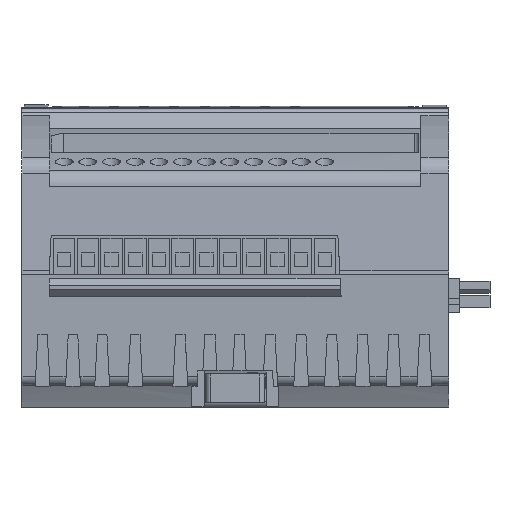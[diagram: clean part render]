
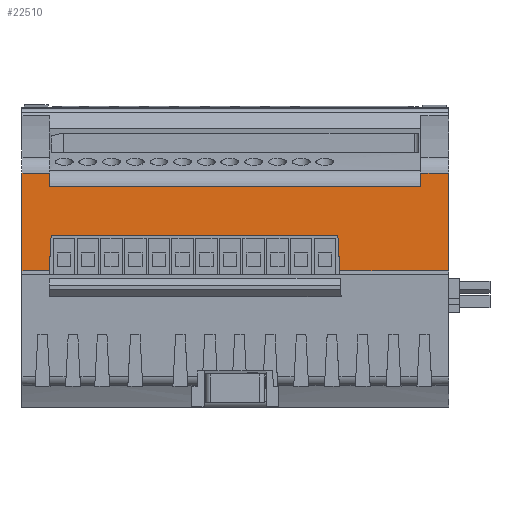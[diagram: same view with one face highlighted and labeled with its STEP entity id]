
A CAD part, front view. The second image highlights one B-rep face of the part: STEP entity #22510.
In plain terms, the highlighted planar face has unit normal (0, -0.999, 0.052).
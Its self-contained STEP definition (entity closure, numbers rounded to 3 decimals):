
#507=DIRECTION('',(0.,0.052,0.999));
#508=VECTOR('',#507,20.679);
#509=CARTESIAN_POINT('',(90.,0.,28.687));
#510=LINE('',#509,#508);
#763=DIRECTION('',(0.,0.052,0.999));
#764=VECTOR('',#763,20.679);
#765=CARTESIAN_POINT('',(0.,0.,28.687));
#766=LINE('',#765,#764);
#976=DIRECTION('',(-0.052,0.052,0.997));
#977=VECTOR('',#976,7.541);
#978=CARTESIAN_POINT('',(67.035,0.,28.687));
#979=LINE('',#978,#977);
#980=DIRECTION('',(-1.,0.,0.));
#981=VECTOR('',#980,60.5);
#982=CARTESIAN_POINT('',(66.641,0.394,36.207));
#983=LINE('',#982,#981);
#984=DIRECTION('',(0.052,0.052,0.997));
#985=VECTOR('',#984,7.541);
#986=CARTESIAN_POINT('',(5.747,0.,28.687));
#987=LINE('',#986,#985);
#988=DIRECTION('',(1.,0.,0.));
#989=VECTOR('',#988,5.747);
#990=CARTESIAN_POINT('',(0.,0.,28.687));
#991=LINE('',#990,#989);
#992=DIRECTION('',(0.,-0.052,-0.999));
#993=VECTOR('',#992,2.765);
#994=CARTESIAN_POINT('',(5.841,1.082,49.337));
#995=LINE('',#994,#993);
#996=DIRECTION('',(1.,0.,0.));
#997=VECTOR('',#996,78.282);
#998=CARTESIAN_POINT('',(5.841,0.938,46.577));
#999=LINE('',#998,#997);
#1000=DIRECTION('',(0.,-0.052,-0.999));
#1001=VECTOR('',#1000,2.765);
#1002=CARTESIAN_POINT('',(84.123,1.082,49.337));
#1003=LINE('',#1002,#1001);
#1004=DIRECTION('',(1.,0.,0.));
#1005=VECTOR('',#1004,22.965);
#1006=CARTESIAN_POINT('',(67.035,0.,28.687));
#1007=LINE('',#1006,#1005);
#10216=DIRECTION('',(1.,0.,0.));
#10217=VECTOR('',#10216,5.841);
#10218=CARTESIAN_POINT('',(0.,1.082,49.337));
#10219=LINE('',#10218,#10217);
#13156=DIRECTION('',(1.,0.,0.));
#13157=VECTOR('',#13156,5.877);
#13158=CARTESIAN_POINT('',(84.123,1.082,49.337));
#13159=LINE('',#13158,#13157);
#16942=CARTESIAN_POINT('',(0.,0.,28.687));
#16943=VERTEX_POINT('',#16942);
#16944=CARTESIAN_POINT('',(0.,1.082,49.337));
#16945=VERTEX_POINT('',#16944);
#17006=CARTESIAN_POINT('',(90.,0.,28.687));
#17007=VERTEX_POINT('',#17006);
#17008=CARTESIAN_POINT('',(90.,1.082,49.337));
#17009=VERTEX_POINT('',#17008);
#17080=CARTESIAN_POINT('',(5.841,1.082,49.337));
#17081=CARTESIAN_POINT('',(5.841,0.938,46.577));
#17082=VERTEX_POINT('',#17080);
#17083=VERTEX_POINT('',#17081);
#17084=CARTESIAN_POINT('',(84.123,1.082,49.337));
#17085=CARTESIAN_POINT('',(84.123,0.938,46.577));
#17086=VERTEX_POINT('',#17084);
#17087=VERTEX_POINT('',#17085);
#18746=CARTESIAN_POINT('',(67.035,0.,28.687));
#18747=VERTEX_POINT('',#18746);
#18748=CARTESIAN_POINT('',(5.747,0.,28.687));
#18749=VERTEX_POINT('',#18748);
#18750=CARTESIAN_POINT('',(66.641,0.394,
36.207));
#18751=VERTEX_POINT('',#18750);
#18752=CARTESIAN_POINT('',(6.141,0.394,
36.207));
#18753=VERTEX_POINT('',#18752);
#22482=CARTESIAN_POINT('',(0.,0.,28.687));
#22483=DIRECTION('',(0.,-0.999,0.052));
#22484=DIRECTION('',(0.,0.052,0.999));
#22485=AXIS2_PLACEMENT_3D('',#22482,#22483,#22484);
#22486=PLANE('',#22485);
#22488=ORIENTED_EDGE('',*,*,#22487,.T.);
#22490=ORIENTED_EDGE('',*,*,#22489,.T.);
#22492=ORIENTED_EDGE('',*,*,#22491,.F.);
#22494=ORIENTED_EDGE('',*,*,#22493,.F.);
#22495=ORIENTED_EDGE('',*,*,#22209,.T.);
#22497=ORIENTED_EDGE('',*,*,#22496,.T.);
#22499=ORIENTED_EDGE('',*,*,#22498,.T.);
#22501=ORIENTED_EDGE('',*,*,#22500,.T.);
#22502=ORIENTED_EDGE('',*,*,#22469,.F.);
#22504=ORIENTED_EDGE('',*,*,#22503,.T.);
#22505=ORIENTED_EDGE('',*,*,#22021,.F.);
#22507=ORIENTED_EDGE('',*,*,#22506,.F.);
#22508=EDGE_LOOP('',(#22488,#22490,#22492,#22494,#22495,#22497,#22499,#22501,
#22502,#22504,#22505,#22507));
#22509=FACE_OUTER_BOUND('',#22508,.F.);
#22021=EDGE_CURVE('',#17007,#17009,#510,.T.);
#22209=EDGE_CURVE('',#16943,#16945,#766,.T.);
#22469=EDGE_CURVE('',#17086,#17087,#1003,.T.);
#22487=EDGE_CURVE('',#18747,#18751,#979,.T.);
#22489=EDGE_CURVE('',#18751,#18753,#983,.T.);
#22491=EDGE_CURVE('',#18749,#18753,#987,.T.);
#22493=EDGE_CURVE('',#16943,#18749,#991,.T.);
#22496=EDGE_CURVE('',#16945,#17082,#10219,.T.);
#22498=EDGE_CURVE('',#17082,#17083,#995,.T.);
#22500=EDGE_CURVE('',#17083,#17087,#999,.T.);
#22503=EDGE_CURVE('',#17086,#17009,#13159,.T.);
#22506=EDGE_CURVE('',#18747,#17007,#1007,.T.);
#22510=ADVANCED_FACE('',(#22509),#22486,.T.);
